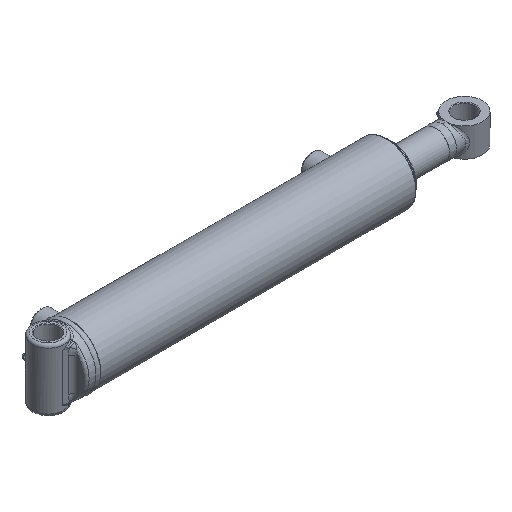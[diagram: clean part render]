
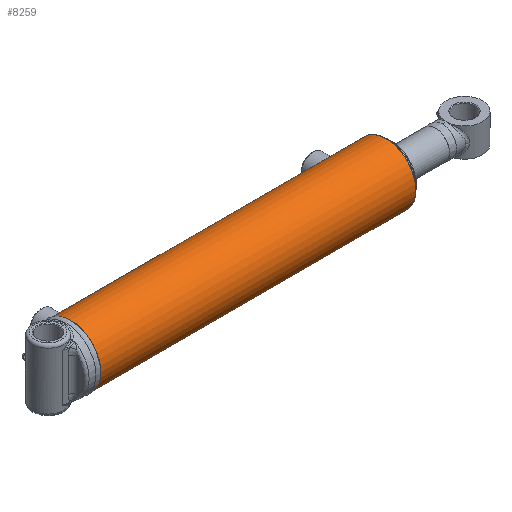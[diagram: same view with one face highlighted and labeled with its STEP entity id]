
A CAD part, isometric view. The second image highlights one B-rep face of the part: STEP entity #8259.
In plain terms, the highlighted cylindrical face has radius 36.513 mm (diameter 73.025 mm), a full revolution.
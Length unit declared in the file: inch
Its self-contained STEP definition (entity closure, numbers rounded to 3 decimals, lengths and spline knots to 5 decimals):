
#713=B_SPLINE_CURVE_WITH_KNOTS('',3,(#12235,#12236,#12237,#12238,#12239,
#12240,#12241,#12242,#12243,#12244),.UNSPECIFIED.,.F.,.F.,(4,2,2,2,4),(0.,
0.17962,0.35924,0.53885,0.71847),
 .UNSPECIFIED.);
#714=B_SPLINE_CURVE_WITH_KNOTS('',3,(#12245,#12246,#12247,#12248,#12249,
#12250,#12251,#12252,#12253,#12254,#12255,#12256,#12257,#12258,#12259,#12260,
#12261,#12262,#12263,#12264,#12265,#12266,#12267,#12268,#12269,#12270),
 .UNSPECIFIED.,.F.,.F.,(4,2,2,2,2,2,2,2,2,2,2,2,4),(0.71847,0.89808,
1.0777,1.25732,1.43694,1.61655,1.79617,
1.97579,2.1554,2.33502,2.51464,2.69425,
2.87387),.UNSPECIFIED.);
#715=B_SPLINE_CURVE_WITH_KNOTS('',3,(#12275,#12276,#12277,#12278,#12279,
#12280,#12281,#12282,#12283,#12284),.UNSPECIFIED.,.F.,.F.,(4,2,2,2,4),(0.,
0.17962,0.35924,0.53885,0.71847),
 .UNSPECIFIED.);
#716=B_SPLINE_CURVE_WITH_KNOTS('',3,(#12285,#12286,#12287,#12288,#12289,
#12290,#12291,#12292,#12293,#12294,#12295,#12296,#12297,#12298,#12299,#12300,
#12301,#12302,#12303,#12304,#12305,#12306,#12307,#12308,#12309,#12310),
 .UNSPECIFIED.,.F.,.F.,(4,2,2,2,2,2,2,2,2,2,2,2,4),(0.71847,0.89808,
1.0777,1.25732,1.43694,1.61655,1.79617,
1.97579,2.1554,2.33502,2.51464,2.69425,
2.87387),.UNSPECIFIED.);
#1063=FACE_BOUND('',#2630,.T.);
#1064=FACE_BOUND('',#2631,.T.);
#1342=LINE('',#12338,#1685);
#1685=VECTOR('',#10083,1.4375);
#2025=CYLINDRICAL_SURFACE('',#9126,1.4375);
#2115=FACE_OUTER_BOUND('',#2629,.T.);
#2629=EDGE_LOOP('',(#5794,#5795,#5796,#5797,#5798,#5799));
#2630=EDGE_LOOP('',(#5800,#5801));
#2631=EDGE_LOOP('',(#5802,#5803));
#3228=CIRCLE('',#9123,1.4375);
#3230=CIRCLE('',#9125,1.4375);
#3231=CIRCLE('',#9127,1.4375);
#3232=CIRCLE('',#9128,1.4375);
#3701=VERTEX_POINT('',#12232);
#3702=VERTEX_POINT('',#12234);
#3703=VERTEX_POINT('',#12272);
#3704=VERTEX_POINT('',#12274);
#3711=VERTEX_POINT('',#12331);
#3712=VERTEX_POINT('',#12332);
#3713=VERTEX_POINT('',#12337);
#3714=VERTEX_POINT('',#12339);
#4507=EDGE_CURVE('',#3702,#3701,#713,.T.);
#4508=EDGE_CURVE('',#3701,#3702,#714,.T.);
#4510=EDGE_CURVE('',#3704,#3703,#715,.T.);
#4511=EDGE_CURVE('',#3703,#3704,#716,.T.);
#4521=EDGE_CURVE('',#3711,#3712,#3228,.T.);
#4523=EDGE_CURVE('',#3712,#3711,#3230,.T.);
#4524=EDGE_CURVE('',#3711,#3713,#1342,.T.);
#4525=EDGE_CURVE('',#3714,#3713,#3231,.T.);
#4526=EDGE_CURVE('',#3713,#3714,#3232,.T.);
#5794=ORIENTED_EDGE('',*,*,#4521,.F.);
#5795=ORIENTED_EDGE('',*,*,#4524,.T.);
#5796=ORIENTED_EDGE('',*,*,#4525,.F.);
#5797=ORIENTED_EDGE('',*,*,#4526,.F.);
#5798=ORIENTED_EDGE('',*,*,#4524,.F.);
#5799=ORIENTED_EDGE('',*,*,#4523,.F.);
#5800=ORIENTED_EDGE('',*,*,#4507,.T.);
#5801=ORIENTED_EDGE('',*,*,#4508,.T.);
#5802=ORIENTED_EDGE('',*,*,#4510,.T.);
#5803=ORIENTED_EDGE('',*,*,#4511,.T.);
#8259=ADVANCED_FACE('',(#2115,#1063,#1064),#2025,.T.);
#9123=AXIS2_PLACEMENT_3D('',#12333,#10075,#10076);
#9125=AXIS2_PLACEMENT_3D('',#12335,#10079,#10080);
#9126=AXIS2_PLACEMENT_3D('',#12336,#10081,#10082);
#9127=AXIS2_PLACEMENT_3D('',#12340,#10084,#10085);
#9128=AXIS2_PLACEMENT_3D('',#12341,#10086,#10087);
#10075=DIRECTION('center_axis',(1.,0.,0.));
#10076=DIRECTION('ref_axis',(0.,-1.,0.));
#10079=DIRECTION('center_axis',(1.,0.,0.));
#10080=DIRECTION('ref_axis',(0.,-1.,0.));
#10081=DIRECTION('center_axis',(1.,0.,0.));
#10082=DIRECTION('ref_axis',(0.,-1.,0.));
#10083=DIRECTION('',(-1.,0.,0.));
#10084=DIRECTION('center_axis',(-1.,0.,0.));
#10085=DIRECTION('ref_axis',(0.,-1.,0.));
#10086=DIRECTION('center_axis',(-1.,0.,0.));
#10087=DIRECTION('ref_axis',(0.,-1.,0.));
#12232=CARTESIAN_POINT('',(0.5925,0.,1.4375));
#12234=CARTESIAN_POINT('',(0.78,-0.1875,1.42522));
#12235=CARTESIAN_POINT('Ctrl Pts',(0.78,-0.1875,1.42522));
#12236=CARTESIAN_POINT('Ctrl Pts',(0.75643,-0.1875,1.42522));
#12237=CARTESIAN_POINT('Ctrl Pts',(0.7313,-0.18278,
1.42586));
#12238=CARTESIAN_POINT('Ctrl Pts',(0.68512,-0.16364,
1.42819));
#12239=CARTESIAN_POINT('Ctrl Pts',(0.66405,-0.14921,
1.42983));
#12240=CARTESIAN_POINT('Ctrl Pts',(0.63079,-0.11595,
1.43291));
#12241=CARTESIAN_POINT('Ctrl Pts',(0.61636,-0.09488,
1.43455));
#12242=CARTESIAN_POINT('Ctrl Pts',(0.59722,-0.0487,
1.43686));
#12243=CARTESIAN_POINT('Ctrl Pts',(0.5925,-0.02357,1.4375));
#12244=CARTESIAN_POINT('Ctrl Pts',(0.5925,0.,1.4375));
#12245=CARTESIAN_POINT('Ctrl Pts',(0.5925,0.,1.4375));
#12246=CARTESIAN_POINT('Ctrl Pts',(0.5925,0.02357,1.4375));
#12247=CARTESIAN_POINT('Ctrl Pts',(0.59722,0.0487,
1.43686));
#12248=CARTESIAN_POINT('Ctrl Pts',(0.61636,0.09488,
1.43455));
#12249=CARTESIAN_POINT('Ctrl Pts',(0.63079,0.11595,
1.43291));
#12250=CARTESIAN_POINT('Ctrl Pts',(0.66405,0.14921,
1.42983));
#12251=CARTESIAN_POINT('Ctrl Pts',(0.68512,0.16364,
1.42819));
#12252=CARTESIAN_POINT('Ctrl Pts',(0.7313,0.18278,
1.42586));
#12253=CARTESIAN_POINT('Ctrl Pts',(0.75643,0.1875,1.42522));
#12254=CARTESIAN_POINT('Ctrl Pts',(0.80357,0.1875,1.42522));
#12255=CARTESIAN_POINT('Ctrl Pts',(0.8287,0.18278,
1.42586));
#12256=CARTESIAN_POINT('Ctrl Pts',(0.87488,0.16364,
1.42819));
#12257=CARTESIAN_POINT('Ctrl Pts',(0.89595,0.14921,
1.42983));
#12258=CARTESIAN_POINT('Ctrl Pts',(0.92921,0.11595,
1.43291));
#12259=CARTESIAN_POINT('Ctrl Pts',(0.94364,0.09488,
1.43455));
#12260=CARTESIAN_POINT('Ctrl Pts',(0.96278,0.0487,
1.43686));
#12261=CARTESIAN_POINT('Ctrl Pts',(0.9675,0.02357,1.4375));
#12262=CARTESIAN_POINT('Ctrl Pts',(0.9675,-0.02357,1.4375));
#12263=CARTESIAN_POINT('Ctrl Pts',(0.96278,-0.0487,
1.43686));
#12264=CARTESIAN_POINT('Ctrl Pts',(0.94364,-0.09488,
1.43455));
#12265=CARTESIAN_POINT('Ctrl Pts',(0.92921,-0.11595,
1.43291));
#12266=CARTESIAN_POINT('Ctrl Pts',(0.89595,-0.14921,
1.42983));
#12267=CARTESIAN_POINT('Ctrl Pts',(0.87488,-0.16364,
1.42819));
#12268=CARTESIAN_POINT('Ctrl Pts',(0.8287,-0.18278,
1.42586));
#12269=CARTESIAN_POINT('Ctrl Pts',(0.80357,-0.1875,1.42522));
#12270=CARTESIAN_POINT('Ctrl Pts',(0.78,-0.1875,1.42522));
#12272=CARTESIAN_POINT('',(13.6095,0.,1.4375));
#12274=CARTESIAN_POINT('',(13.797,-0.1875,1.42522));
#12275=CARTESIAN_POINT('Ctrl Pts',(13.797,-0.1875,1.42522));
#12276=CARTESIAN_POINT('Ctrl Pts',(13.77343,-0.1875,
1.42522));
#12277=CARTESIAN_POINT('Ctrl Pts',(13.7483,-0.18278,
1.42586));
#12278=CARTESIAN_POINT('Ctrl Pts',(13.70212,-0.16364,
1.42819));
#12279=CARTESIAN_POINT('Ctrl Pts',(13.68105,-0.14921,
1.42983));
#12280=CARTESIAN_POINT('Ctrl Pts',(13.64779,-0.11595,1.43291));
#12281=CARTESIAN_POINT('Ctrl Pts',(13.63336,-0.09488,
1.43455));
#12282=CARTESIAN_POINT('Ctrl Pts',(13.61422,-0.0487,
1.43686));
#12283=CARTESIAN_POINT('Ctrl Pts',(13.6095,-0.02357,1.4375));
#12284=CARTESIAN_POINT('Ctrl Pts',(13.6095,0.,1.4375));
#12285=CARTESIAN_POINT('Ctrl Pts',(13.6095,0.,1.4375));
#12286=CARTESIAN_POINT('Ctrl Pts',(13.6095,0.02357,1.4375));
#12287=CARTESIAN_POINT('Ctrl Pts',(13.61422,0.0487,
1.43686));
#12288=CARTESIAN_POINT('Ctrl Pts',(13.63336,0.09488,
1.43455));
#12289=CARTESIAN_POINT('Ctrl Pts',(13.64779,0.11595,1.43291));
#12290=CARTESIAN_POINT('Ctrl Pts',(13.68105,0.14921,1.42983));
#12291=CARTESIAN_POINT('Ctrl Pts',(13.70212,0.16364,1.42819));
#12292=CARTESIAN_POINT('Ctrl Pts',(13.7483,0.18278,1.42586));
#12293=CARTESIAN_POINT('Ctrl Pts',(13.77343,0.1875,1.42522));
#12294=CARTESIAN_POINT('Ctrl Pts',(13.82057,0.1875,1.42522));
#12295=CARTESIAN_POINT('Ctrl Pts',(13.8457,0.18278,1.42586));
#12296=CARTESIAN_POINT('Ctrl Pts',(13.89188,0.16364,1.42819));
#12297=CARTESIAN_POINT('Ctrl Pts',(13.91295,0.14921,1.42983));
#12298=CARTESIAN_POINT('Ctrl Pts',(13.94621,0.11595,1.43291));
#12299=CARTESIAN_POINT('Ctrl Pts',(13.96064,0.09488,
1.43455));
#12300=CARTESIAN_POINT('Ctrl Pts',(13.97978,0.0487,
1.43686));
#12301=CARTESIAN_POINT('Ctrl Pts',(13.9845,0.02357,1.4375));
#12302=CARTESIAN_POINT('Ctrl Pts',(13.9845,-0.02357,1.4375));
#12303=CARTESIAN_POINT('Ctrl Pts',(13.97978,-0.0487,
1.43686));
#12304=CARTESIAN_POINT('Ctrl Pts',(13.96064,-0.09488,
1.43455));
#12305=CARTESIAN_POINT('Ctrl Pts',(13.94621,-0.11595,1.43291));
#12306=CARTESIAN_POINT('Ctrl Pts',(13.91295,-0.14921,
1.42983));
#12307=CARTESIAN_POINT('Ctrl Pts',(13.89188,-0.16364,
1.42819));
#12308=CARTESIAN_POINT('Ctrl Pts',(13.8457,-0.18278,
1.42586));
#12309=CARTESIAN_POINT('Ctrl Pts',(13.82057,-0.1875,
1.42522));
#12310=CARTESIAN_POINT('Ctrl Pts',(13.797,-0.1875,1.42522));
#12331=CARTESIAN_POINT('',(15.227,1.4375,0.));
#12332=CARTESIAN_POINT('',(15.227,0.,-1.4375));
#12333=CARTESIAN_POINT('Origin',(15.227,0.,0.));
#12335=CARTESIAN_POINT('Origin',(15.227,0.,0.));
#12336=CARTESIAN_POINT('Origin',(0.,0.,0.));
#12337=CARTESIAN_POINT('',(0.09382,1.4375,0.));
#12338=CARTESIAN_POINT('',(0.,1.4375,0.));
#12339=CARTESIAN_POINT('',(0.09382,0.,1.4375));
#12340=CARTESIAN_POINT('Origin',(0.09382,0.,0.));
#12341=CARTESIAN_POINT('Origin',(0.09382,0.,0.));
